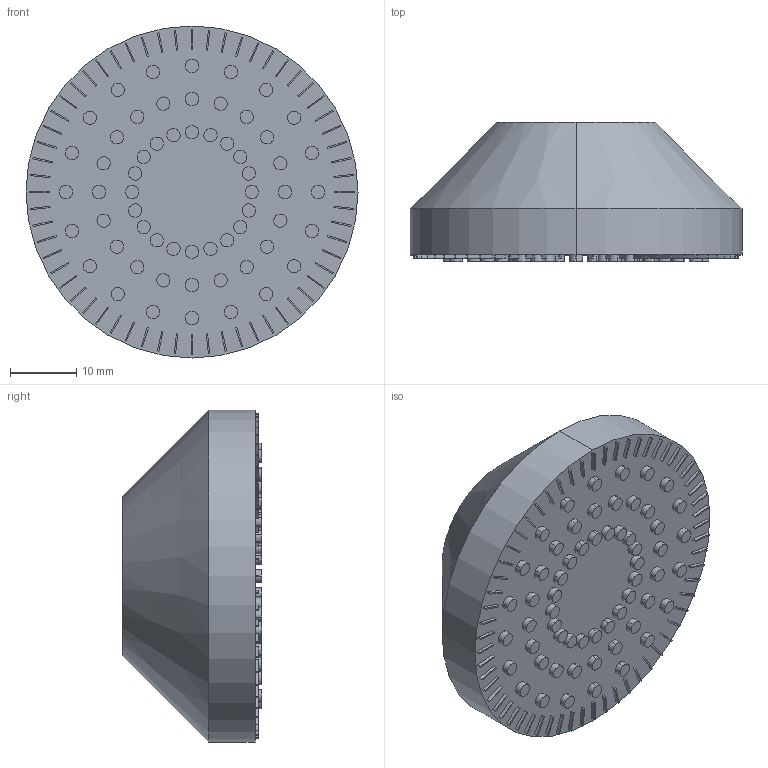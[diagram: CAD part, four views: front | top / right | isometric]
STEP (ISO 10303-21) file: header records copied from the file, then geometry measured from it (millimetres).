
FILE_DESCRIPTION (( 'STEP AP203' ), '1' );
FILE_NAME ('CP-FM50.STEP', '2018-03-16T12:30:31', ( '' ), ( '' ), 'SwSTEP 2.0', 'SolidWorks 2013', '' );
FILE_SCHEMA (( 'CONFIG_CONTROL_DESIGN' ));
Length unit declared in the file: millimetre
Products named in the file (1): CP-FM50
Bounding box: 50 x 21 x 50 mm (x, y, z)
Volume: 27581.8 mm3; surface area: 6462 mm2
Topology: 1 solids, 1 shells, 488 faces, 1099 edges, 732 vertices
Faces by surface type: plane 362, cylinder 122, sphere 2, cone 2
Entity records: 13597 total; most frequent: DIRECTION 2322, CARTESIAN_POINT 2312, ORIENTED_EDGE 2188, EDGE_CURVE 1094, VECTOR 844, LINE 844, AXIS2_PLACEMENT_3D 739, VERTEX_POINT 729
